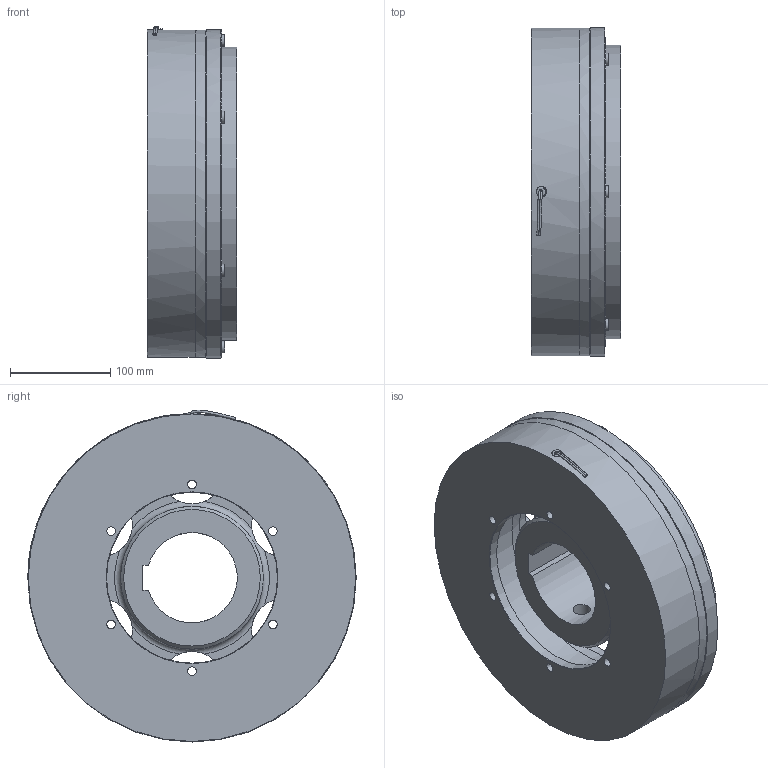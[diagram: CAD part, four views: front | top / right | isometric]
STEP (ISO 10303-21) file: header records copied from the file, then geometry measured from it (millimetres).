
FILE_DESCRIPTION(/* description */ (''),/* implementation_level */ '2;1');
FILE_NAME(/* name */ 'X:\INVENTOR\DISEGNI\08_Freni_Friz_Elettmag_Monodisco\08_28 EMFL_DF\EMFL_DF STEP\08_28_310_13 EMFL310_DF-C-MI@STEP.stp',/* time_stamp */ '2018-04-23T09:43:52+02:00',/* author */ ('stefano'),/* organization */ (''),/* preprocessor_version */ 'ST-DEVELOPER v17',/* originating_system */ 'Autodesk Inventor 2018',/* authorisation */ '');
FILE_SCHEMA (('AUTOMOTIVE_DESIGN { 1 0 10303 214 3 1 1 }'));
Length unit declared in the file: millimetre
Products named in the file (1): 08_28_310_13 EMFL310_DF-C-MI_Substitute_1
Bounding box: 89 x 327 x 330.47 mm (x, y, z)
Volume: 4678330.9 mm3; surface area: 584791.8 mm2
Topology: 3 solids, 3 shells, 514 faces, 1552 edges, 1045 vertices
Faces by surface type: cylinder 301, plane 153, cone 50, torus 7, bspline 3
Full cylindrical faces by diameter (mm): 3 x12, 4 x1, 8.1 x12, 8.376 x6, 8.5 x6, 9 x1, 12 x12, 15 x12, 16 x6, 17.294 x2, 35 x6, 65 x6, 142 x1, 170 x1, 202 x2, 214 x1, 238 x1, 292 x1, 300 x1, 326 x2, 327 x1
Entity records: 19357 total; most frequent: CARTESIAN_POINT 3829, DIRECTION 3553, ORIENTED_EDGE 3094, AXIS2_PLACEMENT_3D 1561, EDGE_CURVE 1547, CIRCLE 1047, VERTEX_POINT 1046, EDGE_LOOP 654
